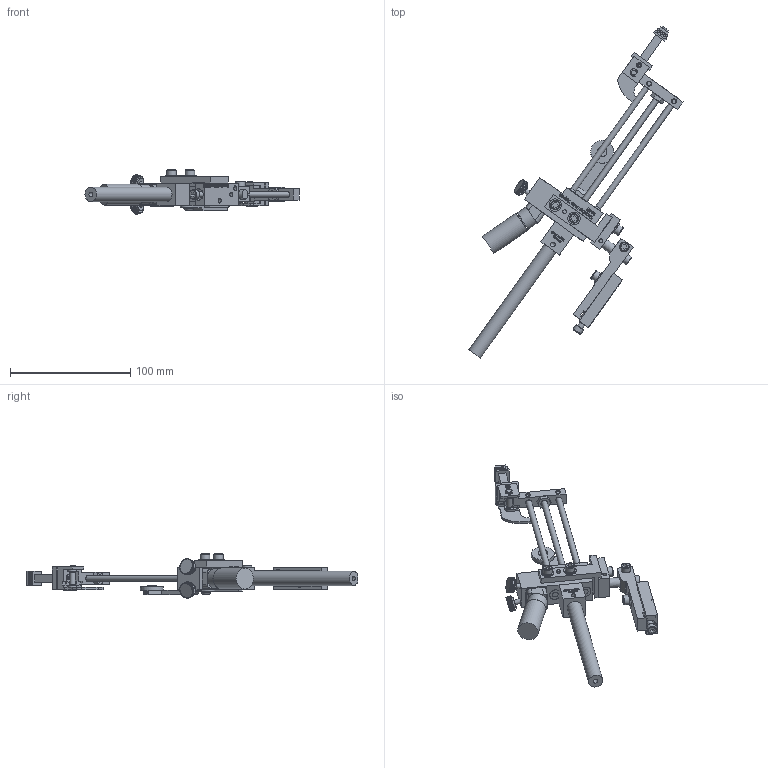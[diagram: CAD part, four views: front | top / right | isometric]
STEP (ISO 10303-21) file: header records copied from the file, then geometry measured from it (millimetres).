
FILE_DESCRIPTION((''),'2;1');
FILE_NAME('C:\Documents and Settings\Ron\My Documents\Inventor\Sprinter Drawing\Machines in Inventor\Model 44\Type\Ext Hd 1in\Brkt\Ext\Model 44 Ext HD 1in type Ext w brkt.stp','2009-01-20T09:52:31',('Ron'),(''),'Autodesk Inventor 2008','Autodesk Inventor 2008','');
FILE_SCHEMA(('AUTOMOTIVE_DESIGN { 1 0 10303 214 1 1 1 1 }'));
Length unit declared in the file: inch
Products named in the file (1): Model 44 Ext HD 1in type Ext w brkt
Bounding box: 178.17 x 276.41 x 36.82 mm (x, y, z)
Volume: 112692.7 mm3; surface area: 56351.5 mm2
Topology: 384 solids, 384 shells, 6307 faces, 15699 edges, 9728 vertices
Faces by surface type: plane 4449, bspline 1327, cylinder 473, cone 54, torus 4
Full cylindrical faces by diameter (mm): 3.175 x4, 3.302 x1, 3.505 x1, 3.962 x1, 4.064 x7, 4.166 x1, 4.699 x1, 4.75 x4, 4.775 x1, 4.826 x7, 5.08 x1, 5.156 x4, 5.207 x2, 5.41 x2, 6.096 x1, 7.239 x1, 7.353 x1, 7.62 x1, 7.925 x7, 7.938 x1, 8.128 x1, 9.017 x1, 9.525 x2, 10.312 x4, 10.922 x1, 11.036 x1, 11.938 x2, 14.478 x1, 16.256 x1, 17.272 x1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
Entity records: 201261 total; most frequent: CARTESIAN_POINT 55101, ORIENTED_EDGE 30932, DIRECTION 24075, EDGE_CURVE 15466, VECTOR 11563, LINE 11563, VERTEX_POINT 9659, EDGE_LOOP 6879
